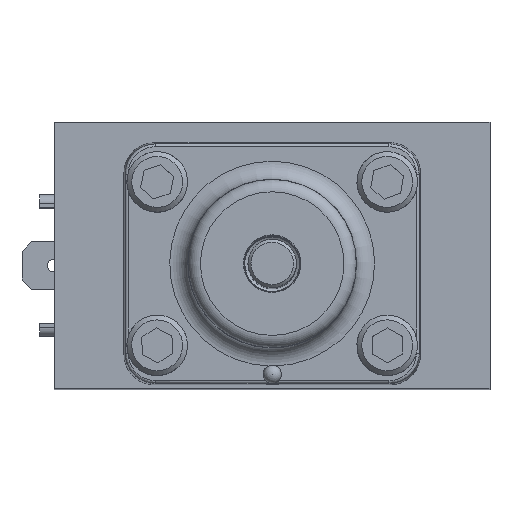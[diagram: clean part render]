
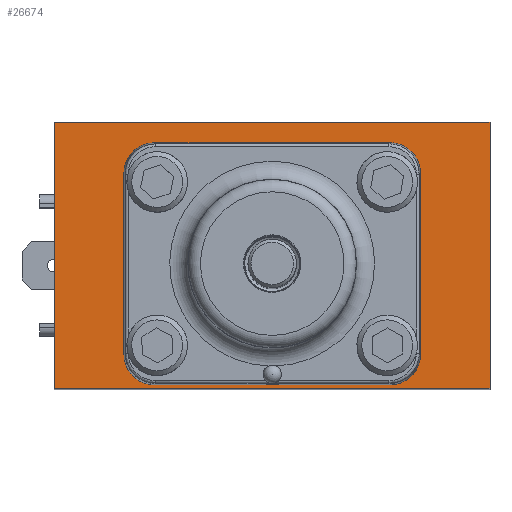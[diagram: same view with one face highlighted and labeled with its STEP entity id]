
A CAD part, top view. The second image highlights one B-rep face of the part: STEP entity #26674.
In plain terms, the highlighted planar face has unit normal (0, 0, 1).
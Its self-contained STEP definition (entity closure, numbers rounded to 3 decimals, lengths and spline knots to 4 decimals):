
#344=LINE('',#42771,#2122);
#350=LINE('',#42786,#2128);
#354=LINE('',#42798,#2132);
#358=LINE('',#42810,#2136);
#984=LINE('',#46324,#2762);
#988=LINE('',#46359,#2766);
#1019=LINE('',#46909,#2797);
#1260=LINE('',#48324,#3038);
#2122=VECTOR('',#31039,3.0759);
#2128=VECTOR('',#31053,2.3622);
#2132=VECTOR('',#31065,3.0759);
#2136=VECTOR('',#31077,2.3622);
#2762=VECTOR('',#33959,5.715);
#2766=VECTOR('',#33999,5.715);
#2797=VECTOR('',#34218,3.4925);
#3038=VECTOR('',#34605,3.4925);
#5030=FACE_BOUND('',#8399,.T.);
#6461=FACE_OUTER_BOUND('',#8398,.T.);
#8398=EDGE_LOOP('',(#21017,#21018,#21019,#21020));
#8399=EDGE_LOOP('',(#21021,#21022,#21023,#21024,#21025,#21026,#21027,#21028));
#9220=CIRCLE('',#27632,0.4064);
#9222=CIRCLE('',#27636,0.4064);
#9224=CIRCLE('',#27640,0.4064);
#9226=CIRCLE('',#27644,0.4064);
#10597=VERTEX_POINT('',#42769);
#10598=VERTEX_POINT('',#42770);
#10601=VERTEX_POINT('',#42779);
#10603=VERTEX_POINT('',#42785);
#10605=VERTEX_POINT('',#42791);
#10607=VERTEX_POINT('',#42797);
#10609=VERTEX_POINT('',#42803);
#10611=VERTEX_POINT('',#42809);
#11492=VERTEX_POINT('',#46320);
#11494=VERTEX_POINT('',#46323);
#11505=VERTEX_POINT('',#46355);
#11507=VERTEX_POINT('',#46358);
#13095=EDGE_CURVE('',#10597,#10598,#344,.T.);
#13100=EDGE_CURVE('',#10601,#10597,#9220,.T.);
#13103=EDGE_CURVE('',#10603,#10601,#350,.T.);
#13106=EDGE_CURVE('',#10605,#10603,#9222,.T.);
#13109=EDGE_CURVE('',#10607,#10605,#354,.T.);
#13112=EDGE_CURVE('',#10609,#10607,#9224,.T.);
#13115=EDGE_CURVE('',#10611,#10609,#358,.T.);
#13118=EDGE_CURVE('',#10598,#10611,#9226,.T.);
#14391=EDGE_CURVE('',#11494,#11492,#984,.T.);
#14404=EDGE_CURVE('',#11507,#11505,#988,.T.);
#14511=EDGE_CURVE('',#11505,#11494,#1019,.T.);
#14844=EDGE_CURVE('',#11492,#11507,#1260,.T.);
#21017=ORIENTED_EDGE('',*,*,#14391,.T.);
#21018=ORIENTED_EDGE('',*,*,#14844,.T.);
#21019=ORIENTED_EDGE('',*,*,#14404,.T.);
#21020=ORIENTED_EDGE('',*,*,#14511,.T.);
#21021=ORIENTED_EDGE('',*,*,#13118,.F.);
#21022=ORIENTED_EDGE('',*,*,#13095,.F.);
#21023=ORIENTED_EDGE('',*,*,#13100,.F.);
#21024=ORIENTED_EDGE('',*,*,#13103,.F.);
#21025=ORIENTED_EDGE('',*,*,#13106,.F.);
#21026=ORIENTED_EDGE('',*,*,#13109,.F.);
#21027=ORIENTED_EDGE('',*,*,#13112,.F.);
#21028=ORIENTED_EDGE('',*,*,#13115,.F.);
#23868=PLANE('',#29032);
#26674=ADVANCED_FACE('',(#6461,#5030),#23868,.T.);
#27632=AXIS2_PLACEMENT_3D('',#42780,#31046,#31047);
#27636=AXIS2_PLACEMENT_3D('',#42792,#31058,#31059);
#27640=AXIS2_PLACEMENT_3D('',#42804,#31070,#31071);
#27644=AXIS2_PLACEMENT_3D('',#42815,#31082,#31083);
#29032=AXIS2_PLACEMENT_3D('',#49302,#34959,#34960);
#31039=DIRECTION('',(1.,0.,0.));
#31046=DIRECTION('center_axis',(0.,0.,
1.));
#31047=DIRECTION('ref_axis',(0.,1.,0.));
#31053=DIRECTION('',(0.,-1.,0.));
#31058=DIRECTION('center_axis',(0.,0.,
1.));
#31059=DIRECTION('ref_axis',(1.,0.,0.));
#31065=DIRECTION('',(-1.,0.,0.));
#31070=DIRECTION('center_axis',(0.,0.,
1.));
#31071=DIRECTION('ref_axis',(0.,-1.,0.));
#31077=DIRECTION('',(0.,1.,0.));
#31082=DIRECTION('center_axis',(0.,0.,
1.));
#31083=DIRECTION('ref_axis',(-1.,0.,0.));
#33959=DIRECTION('',(-1.,0.,0.));
#33999=DIRECTION('',(1.,0.,0.));
#34218=DIRECTION('',(0.,1.,0.));
#34605=DIRECTION('',(0.,-1.,0.));
#34959=DIRECTION('center_axis',(0.,0.,1.));
#34960=DIRECTION('ref_axis',(1.,0.,0.));
#42769=CARTESIAN_POINT('',(-1.538,-1.5875,4.7104));
#42770=CARTESIAN_POINT('',(1.538,-1.5875,4.7104));
#42771=CARTESIAN_POINT('',(-1.538,-1.5875,4.7104));
#42779=CARTESIAN_POINT('',(-1.9444,-1.1811,4.7104));
#42780=CARTESIAN_POINT('Origin',(-1.538,-1.1811,4.7104));
#42785=CARTESIAN_POINT('',(-1.9444,1.1811,4.7104));
#42786=CARTESIAN_POINT('',(-1.9444,1.1811,4.7104));
#42791=CARTESIAN_POINT('',(-1.538,1.5875,4.7104));
#42792=CARTESIAN_POINT('Origin',(-1.538,1.1811,4.7104));
#42797=CARTESIAN_POINT('',(1.538,1.5875,4.7104));
#42798=CARTESIAN_POINT('',(1.538,1.5875,4.7104));
#42803=CARTESIAN_POINT('',(1.9444,1.1811,4.7104));
#42804=CARTESIAN_POINT('Origin',(1.538,1.1811,4.7104));
#42809=CARTESIAN_POINT('',(1.9444,-1.1811,4.7104));
#42810=CARTESIAN_POINT('',(1.9444,-1.1811,4.7104));
#42815=CARTESIAN_POINT('Origin',(1.538,-1.1811,4.7104));
#46320=CARTESIAN_POINT('',(-2.8575,1.8567,4.7104));
#46323=CARTESIAN_POINT('',(2.8575,1.8567,4.7104));
#46324=CARTESIAN_POINT('',(2.8575,1.8567,4.7104));
#46355=CARTESIAN_POINT('',(2.8575,-1.6358,4.7104));
#46358=CARTESIAN_POINT('',(-2.8575,-1.6358,4.7104));
#46359=CARTESIAN_POINT('',(2.8575,-1.6358,4.7104));
#46909=CARTESIAN_POINT('',(2.8575,0.,4.7104));
#48324=CARTESIAN_POINT('',(-2.8575,0.,4.7104));
#49302=CARTESIAN_POINT('Origin',(2.8575,0.,4.7104));
